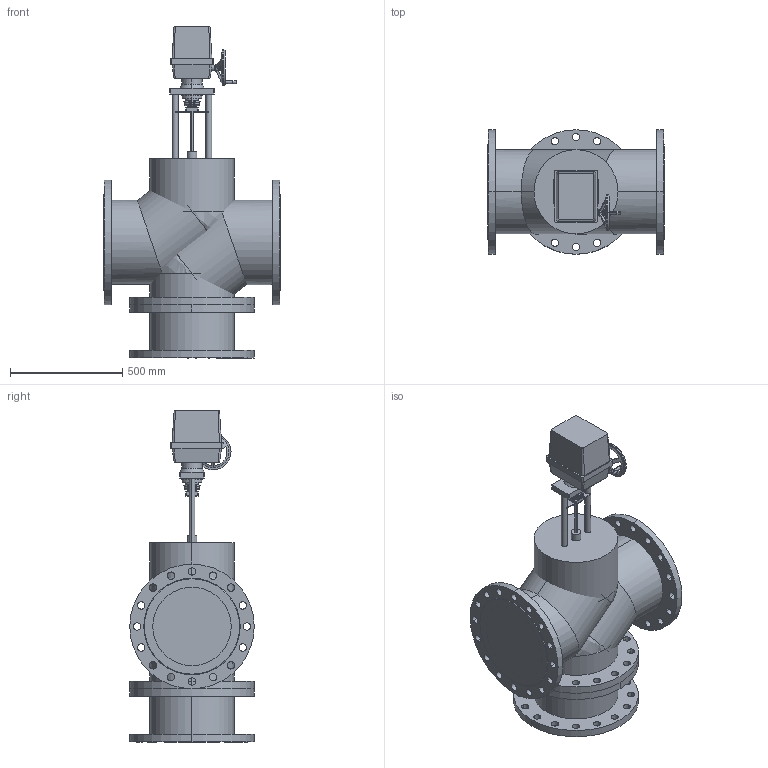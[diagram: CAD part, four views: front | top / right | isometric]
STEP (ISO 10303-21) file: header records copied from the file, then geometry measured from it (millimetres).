
FILE_DESCRIPTION(/* description */ (''),/* implementation_level */ '2;1');
FILE_NAME(/* name */ 'ТРК DN350 PN 2.5 МПа Regada ST2',/* time_stamp */ '2026-07-14T23:17:10+03:00',/* author */ (''),/* organization */ (''),/* preprocessor_version */ 'ST-DEVELOPER v20',/* originating_system */ '',/* authorisation */ '');
FILE_SCHEMA (('AP242_MANAGED_MODEL_BASED_3D_ENGINEERING_MIM_LF { 1 0 10303 442 1 1 4 }'));
Length unit declared in the file: millimetre
Products named in the file (16): TopLevelAssembly; Выдавливание; Модификатор; Модификатор_1; Выдавливание_
1; Выдавливание_
2; Вращение; Выдавливание_
3; Выдавливание_
4; Выдавливание_
5; Выдавливание_
6; Выдавливание_
7; Привод_Regada ST 2; Переход; Объемная геометрия 
присоединена; Объемная геометрия 
присоединена_1
Assembly tree (15 placements, depth 2):
  TopLevelAssembly
    Выдавливание
    Модификатор
    Модификатор_1
    Выдавливание_
1
    Выдавливание_
2
    Вращение
    Выдавливание_
3
    Выдавливание_
4
    Выдавливание_
5
    Выдавливание_
6
    Выдавливание_
7
    Привод_Regada ST 2
    Переход
    Объемная геометрия 
присоединена
    Объемная геометрия 
присоединена_1
Bounding box: 787 x 555 x 1480 mm (x, y, z)
Volume: 233123634.8 mm3; surface area: 6812943.9 mm2
Topology: 31 solids, 31 shells, 424 faces, 1022 edges, 648 vertices
Faces by surface type: cylinder 252, plane 110, bspline 58, cone 4
Entity records: 14473 total; most frequent: CARTESIAN_POINT 3283, DIRECTION 2370, ORIENTED_EDGE 2024, EDGE_CURVE 1012, AXIS2_PLACEMENT_3D 985, VERTEX_POINT 648, EDGE_LOOP 598, CIRCLE 580
